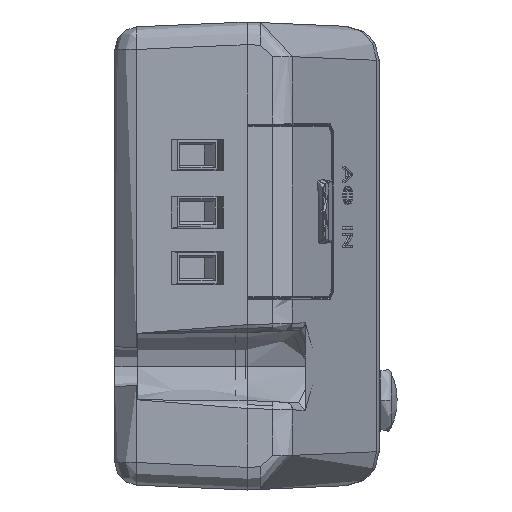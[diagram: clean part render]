
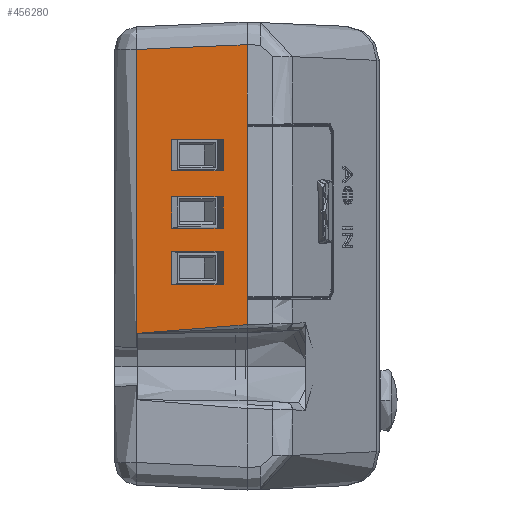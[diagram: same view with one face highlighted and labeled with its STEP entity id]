
A CAD part, left-side view. The second image highlights one B-rep face of the part: STEP entity #456280.
In plain terms, the highlighted planar face has unit normal (-0.999, 0.044, 0) as drawn and (0.999, 0.044, 0) by its records, which use the part's own axes.
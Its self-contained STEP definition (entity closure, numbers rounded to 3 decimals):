
#68500=CARTESIAN_POINT('',(90.764,0.,
9.088));
#68510=VERTEX_POINT('',#68500);
#68830=CARTESIAN_POINT('',(90.764,0.,0.));
#68840=DIRECTION('',(0.,0.,1.));
#68850=VECTOR('',#68840,1.);
#68860=LINE('',#68830,#68850);
#68870=CARTESIAN_POINT('',(90.764,0.,
5.703));
#68880=VERTEX_POINT('',#68870);
#68890=EDGE_CURVE('',#68880,#68510,#68860,.T.);
#69260=CARTESIAN_POINT('',(90.764,0.,0.));
#69270=DIRECTION('',(0.,0.,1.));
#69280=VECTOR('',#69270,1.);
#69290=LINE('',#69260,#69280);
#69300=CARTESIAN_POINT('',(90.764,0.,
5.649));
#69310=VERTEX_POINT('',#69300);
#69320=EDGE_CURVE('',#69310,#68880,#69290,.T.);
#94420=CARTESIAN_POINT('',(90.764,0.,
-17.437));
#94430=VERTEX_POINT('',#94420);
#94460=CARTESIAN_POINT('',(90.764,0.,0.));
#94470=DIRECTION('',(0.,0.,1.));
#94480=VECTOR('',#94470,1.);
#94490=LINE('',#94460,#94480);
#94500=CARTESIAN_POINT('',(90.764,-0.001,
-27.967));
#94510=VERTEX_POINT('',#94500);
#94520=EDGE_CURVE('',#94510,#94430,#94490,.T.);
#453670=CARTESIAN_POINT('',(90.625,3.175,
3.814));
#453680=VERTEX_POINT('',#453670);
#453710=CARTESIAN_POINT('',(90.329,9.963,
3.794));
#453720=DIRECTION('',(0.044,-0.999,
0.003));
#453730=VECTOR('',#453720,1.);
#453740=LINE('',#453710,#453730);
#453750=CARTESIAN_POINT('',(90.329,9.963,
3.794));
#453760=VERTEX_POINT('',#453750);
#453770=EDGE_CURVE('',#453760,#453680,#453740,.T.);
#454080=CARTESIAN_POINT('',(90.625,3.175,
-0.61));
#454090=VERTEX_POINT('',#454080);
#454120=CARTESIAN_POINT('',(90.625,3.175,
-0.61));
#454130=DIRECTION('',(0.,0.,1.));
#454140=VECTOR('',#454130,1.);
#454150=LINE('',#454120,#454140);
#454160=EDGE_CURVE('',#454090,#453680,#454150,.T.);
#454380=CARTESIAN_POINT('',(90.329,9.963,
-0.589));
#454390=VERTEX_POINT('',#454380);
#454420=CARTESIAN_POINT('',(90.625,3.175,
-0.61));
#454430=DIRECTION('',(-0.044,0.999,
0.003));
#454440=VECTOR('',#454430,1.);
#454450=LINE('',#454420,#454440);
#454460=EDGE_CURVE('',#454090,#454390,#454450,.T.);
#454700=CARTESIAN_POINT('',(90.329,9.963,
3.794));
#454710=CARTESIAN_POINT('',(90.329,9.963,
3.31));
#454720=CARTESIAN_POINT('',(90.329,9.965,
2.339));
#454730=CARTESIAN_POINT('',(90.329,9.965,
0.87));
#454740=CARTESIAN_POINT('',(90.329,9.963,
-0.103));
#454750=CARTESIAN_POINT('',(90.329,9.963,
-0.589));
#454760=B_SPLINE_CURVE_WITH_KNOTS('',3,(#454700,#454710,#454720,#454730,
#454740,#454750),.UNSPECIFIED.,.F.,.F.,(4,1,1,4),(0.,0.333,
0.667,1.),.UNSPECIFIED.);
#454770=EDGE_CURVE('',#453760,#454390,#454760,.T.);
#454940=CARTESIAN_POINT('',(90.,17.5,
35.551));
#454950=DIRECTION('',(-0.999,-0.044,0.));
#454960=DIRECTION('',(0.,0.,1.));
#454970=AXIS2_PLACEMENT_3D('',#454940,#454950,#454960);
#454980=PLANE('',#454970);
#454990=CARTESIAN_POINT('',(90.131,14.5,
10.234));
#455000=DIRECTION('',(0.,0.,1.));
#455010=VECTOR('',#455000,1.);
#455020=LINE('',#454990,#455010);
#455030=CARTESIAN_POINT('',(90.131,14.5,
10.234));
#455040=VERTEX_POINT('',#455030);
#455050=CARTESIAN_POINT('',(90.131,14.5,
12.132));
#455060=VERTEX_POINT('',#455050);
#455070=EDGE_CURVE('',#455040,#455060,#455020,.T.);
#455080=ORIENTED_EDGE('',*,*,#455070,.F.);
#455090=CARTESIAN_POINT('',(90.125,14.631,
12.127));
#455100=DIRECTION('',(0.044,-0.998,
0.044));
#455110=VECTOR('',#455100,1.);
#455120=LINE('',#455090,#455110);
#455130=CARTESIAN_POINT('',(90.125,14.631,
12.127));
#455140=VERTEX_POINT('',#455130);
#455150=EDGE_CURVE('',#455140,#455060,#455120,.T.);
#455160=ORIENTED_EDGE('',*,*,#455150,.T.);
#455170=CARTESIAN_POINT('',(90.125,14.631,
12.127));
#455180=DIRECTION('',(0.,0.,-1.));
#455190=VECTOR('',#455180,1.);
#455200=LINE('',#455170,#455190);
#455210=CARTESIAN_POINT('',(90.125,14.631,
-27.328));
#455220=VERTEX_POINT('',#455210);
#455230=EDGE_CURVE('',#455140,#455220,#455200,.T.);
#455240=ORIENTED_EDGE('',*,*,#455230,.F.);
#455250=CARTESIAN_POINT('',(90.278,11.131,
-27.481));
#455260=DIRECTION('',(-0.044,0.998,
0.044));
#455270=VECTOR('',#455260,1.);
#455280=LINE('',#455250,#455270);
#455290=EDGE_CURVE('',#94510,#455220,#455280,.T.);
#455300=ORIENTED_EDGE('',*,*,#455290,.T.);
#455310=ORIENTED_EDGE('',*,*,#94520,.F.);
#455320=CARTESIAN_POINT('',(90.764,0.,
-27.972));
#455330=DIRECTION('',(0.,0.,1.));
#455340=VECTOR('',#455330,1.);
#455350=LINE('',#455320,#455340);
#455360=EDGE_CURVE('',#94430,#69310,#455350,.T.);
#455370=ORIENTED_EDGE('',*,*,#455360,.F.);
#455380=ORIENTED_EDGE('',*,*,#69320,.F.);
#455390=ORIENTED_EDGE('',*,*,#68890,.F.);
#455400=CARTESIAN_POINT('',(90.764,0.,
9.088));
#455410=DIRECTION('',(-0.043,0.996,
0.079));
#455420=VECTOR('',#455410,1.);
#455430=LINE('',#455400,#455420);
#455440=EDGE_CURVE('',#68510,#455040,#455430,.T.);
#455450=ORIENTED_EDGE('',*,*,#455440,.F.);
#455460=EDGE_LOOP('',(#455450,#455390,#455380,#455370,#455310,#455300,
#455240,#455160,#455080));
#455470=FACE_OUTER_BOUND('',#455460,.T.);
#455480=CARTESIAN_POINT('',(90.625,3.175,
-15.428));
#455490=DIRECTION('',(-0.044,0.999,0.));
#455500=VECTOR('',#455490,1.);
#455510=LINE('',#455480,#455500);
#455520=CARTESIAN_POINT('',(90.625,3.175,
-15.428));
#455530=VERTEX_POINT('',#455520);
#455540=CARTESIAN_POINT('',(90.329,9.963,
-15.428));
#455550=VERTEX_POINT('',#455540);
#455560=EDGE_CURVE('',#455530,#455550,#455510,.T.);
#455570=ORIENTED_EDGE('',*,*,#455560,.F.);
#455580=CARTESIAN_POINT('',(90.329,9.963,
-11.285));
#455590=CARTESIAN_POINT('',(90.329,9.963,
-11.743));
#455600=CARTESIAN_POINT('',(90.329,9.965,
-12.659));
#455610=CARTESIAN_POINT('',(90.329,9.965,
-14.048));
#455620=CARTESIAN_POINT('',(90.329,9.963,
-14.968));
#455630=CARTESIAN_POINT('',(90.329,9.963,
-15.428));
#455640=B_SPLINE_CURVE_WITH_KNOTS('',3,(#455580,#455590,#455600,#455610,
#455620,#455630),.UNSPECIFIED.,.F.,.F.,(4,1,1,4),(0.,0.333,
0.667,1.),.UNSPECIFIED.);
#455650=CARTESIAN_POINT('',(90.329,9.963,
-11.285));
#455660=VERTEX_POINT('',#455650);
#455670=EDGE_CURVE('',#455660,#455550,#455640,.T.);
#455680=ORIENTED_EDGE('',*,*,#455670,.T.);
#455690=CARTESIAN_POINT('',(90.329,9.963,
-11.285));
#455700=DIRECTION('',(0.044,-0.999,
0.003));
#455710=VECTOR('',#455700,1.);
#455720=LINE('',#455690,#455710);
#455730=CARTESIAN_POINT('',(90.625,3.175,
-11.264));
#455740=VERTEX_POINT('',#455730);
#455750=EDGE_CURVE('',#455660,#455740,#455720,.T.);
#455760=ORIENTED_EDGE('',*,*,#455750,.F.);
#455770=CARTESIAN_POINT('',(90.625,3.175,
-15.428));
#455780=DIRECTION('',(0.,0.,
1.));
#455790=VECTOR('',#455780,1.);
#455800=LINE('',#455770,#455790);
#455810=EDGE_CURVE('',#455530,#455740,#455800,.T.);
#455820=ORIENTED_EDGE('',*,*,#455810,.T.);
#455830=EDGE_LOOP('',(#455820,#455760,#455680,#455570));
#455840=FACE_BOUND('',#455830,.T.);
#455850=ORIENTED_EDGE('',*,*,#453770,.F.);
#455860=ORIENTED_EDGE('',*,*,#454160,.T.);
#455870=ORIENTED_EDGE('',*,*,#454460,.F.);
#455880=ORIENTED_EDGE('',*,*,#454770,.T.);
#455890=EDGE_LOOP('',(#455880,#455870,#455860,#455850));
#455900=FACE_BOUND('',#455890,.T.);
#455910=CARTESIAN_POINT('',(90.329,9.963,
-3.685));
#455920=DIRECTION('',(0.044,-0.999,
0.003));
#455930=VECTOR('',#455920,1.);
#455940=LINE('',#455910,#455930);
#455950=CARTESIAN_POINT('',(90.329,9.963,
-3.685));
#455960=VERTEX_POINT('',#455950);
#455970=CARTESIAN_POINT('',(90.625,3.175,
-3.664));
#455980=VERTEX_POINT('',#455970);
#455990=EDGE_CURVE('',#455960,#455980,#455940,.T.);
#456000=ORIENTED_EDGE('',*,*,#455990,.F.);
#456010=CARTESIAN_POINT('',(90.625,3.175,
-7.827));
#456020=DIRECTION('',(0.,0.,
1.));
#456030=VECTOR('',#456020,1.);
#456040=LINE('',#456010,#456030);
#456050=CARTESIAN_POINT('',(90.625,3.175,
-7.827));
#456060=VERTEX_POINT('',#456050);
#456070=EDGE_CURVE('',#456060,#455980,#456040,.T.);
#456080=ORIENTED_EDGE('',*,*,#456070,.T.);
#456090=CARTESIAN_POINT('',(90.625,3.175,
-7.827));
#456100=DIRECTION('',(-0.044,0.999,0.));
#456110=VECTOR('',#456100,1.);
#456120=LINE('',#456090,#456110);
#456130=CARTESIAN_POINT('',(90.329,9.963,
-7.827));
#456140=VERTEX_POINT('',#456130);
#456150=EDGE_CURVE('',#456060,#456140,#456120,.T.);
#456160=ORIENTED_EDGE('',*,*,#456150,.F.);
#456170=CARTESIAN_POINT('',(90.329,9.963,
-3.685));
#456180=CARTESIAN_POINT('',(90.329,9.963,
-4.142));
#456190=CARTESIAN_POINT('',(90.329,9.965,
-5.059));
#456200=CARTESIAN_POINT('',(90.329,9.965,
-6.448));
#456210=CARTESIAN_POINT('',(90.329,9.963,
-7.368));
#456220=CARTESIAN_POINT('',(90.329,9.963,
-7.827));
#456230=B_SPLINE_CURVE_WITH_KNOTS('',3,(#456170,#456180,#456190,#456200,
#456210,#456220),.UNSPECIFIED.,.F.,.F.,(4,1,1,4),(0.,0.333,
0.667,1.),.UNSPECIFIED.);
#456240=EDGE_CURVE('',#455960,#456140,#456230,.T.);
#456250=ORIENTED_EDGE('',*,*,#456240,.T.);
#456260=EDGE_LOOP('',(#456250,#456160,#456080,#456000));
#456270=FACE_BOUND('',#456260,.T.);
#456280=ADVANCED_FACE('',(#455470,#455840,#455900,#456270),#454980,.F.);
